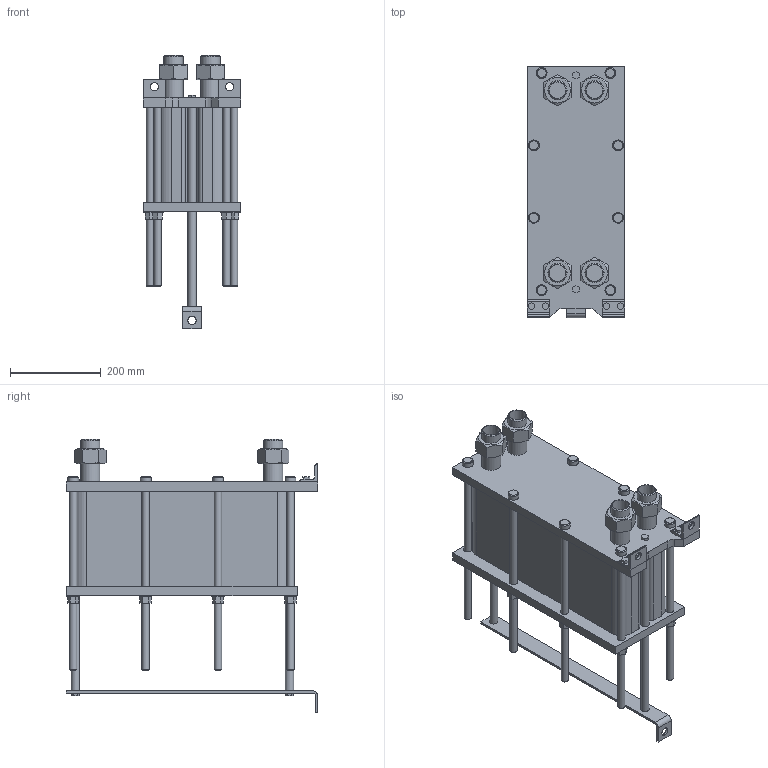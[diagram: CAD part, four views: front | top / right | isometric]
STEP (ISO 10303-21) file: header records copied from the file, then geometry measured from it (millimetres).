
FILE_DESCRIPTION(/* description */ (''),/* implementation_level */ '2;1');
FILE_NAME(/* name */ 'C:\Users\zhuro\Desktop\ENCO\TO\ЭН-004\ЭН-0,5-004-68-1.stp',/* time_stamp */ '2022-06-06T10:48:54+03:00',/* author */ ('zhuro'),/* organization */ (''),/* preprocessor_version */ 'ST-DEVELOPER v18.1',/* originating_system */ 'Autodesk Inventor 2022',/* authorisation */ '');
FILE_SCHEMA (('AUTOMOTIVE_DESIGN { 1 0 10303 214 3 1 1 }'));
Length unit declared in the file: millimetre
Products named in the file (1): ЭН-0,5-004-68-1
Bounding box: 216 x 555 x 603.4 mm (x, y, z)
Volume: 21451385 mm3; surface area: 1415294 mm2
Topology: 40 solids, 40 shells, 403 faces, 865 edges, 574 vertices
Faces by surface type: plane 272, cylinder 103, cone 28
Full cylindrical faces by diameter (mm): 10 x4, 16 x16, 18 x29, 20 x2, 24 x8, 28 x8, 36.3 x5, 42.3 x9
Entity records: 11137 total; most frequent: CARTESIAN_POINT 1939, DIRECTION 1879, ORIENTED_EDGE 1730, EDGE_CURVE 865, AXIS2_PLACEMENT_3D 658, VERTEX_POINT 574, LINE 563, VECTOR 563
